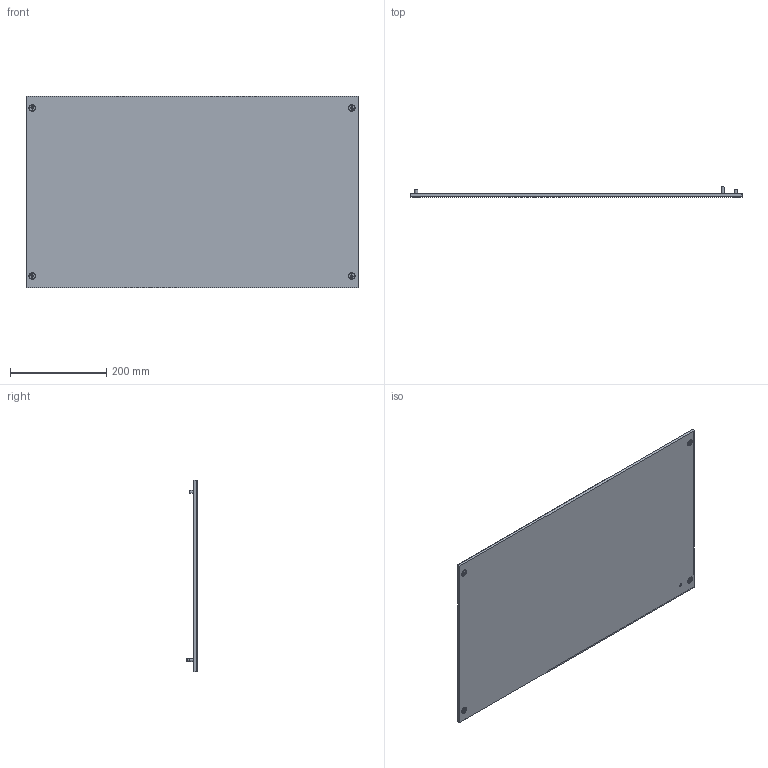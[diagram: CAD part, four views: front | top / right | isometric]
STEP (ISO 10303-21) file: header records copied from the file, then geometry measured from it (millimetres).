
FILE_DESCRIPTION(/* description */ (''),/* implementation_level */ '2;1');
FILE_NAME(/* name */ 'CPK861',/* time_stamp */ '2025-02-03T16:09:33+01:00',/* author */ ('Anitrano Rafael Marcelo'),/* organization */ ('QUADRITALIA SRL'),/* preprocessor_version */ 'ST-DEVELOPER v19.4',/* originating_system */ 'Solid Edge',/* authorisation */ 'Unknown');
FILE_SCHEMA (('AUTOMOTIVE_DESIGN {1 0 10303 214 3 1 1}'));
Length unit declared in the file: millimetre
Products named in the file (4): CPK861; VTS616; Prigioniero M6x20
Assembly tree (6 placements, depth 2):
  CPK861
    CPK861
    VTS616  x4
    Prigioniero M6x20
Bounding box: 691 x 21.8 x 399 mm (x, y, z)
Volume: 432344.7 mm3; surface area: 578935.8 mm2
Topology: 6 solids, 6 shells, 175 faces, 439 edges, 287 vertices
Faces by surface type: plane 79, cylinder 67, cone 21, torus 8
Full cylindrical faces by diameter (mm): 2.5 x1, 3.96 x4, 6 x5, 7 x1, 12 x4
Entity records: 2336 total; most frequent: DIRECTION 374, CARTESIAN_POINT 332, ORIENTED_EDGE 284, AXIS2_PLACEMENT_3D 149, EDGE_CURVE 142, FACE_BOUND 119, EDGE_LOOP 118, VERTEX_POINT 107
